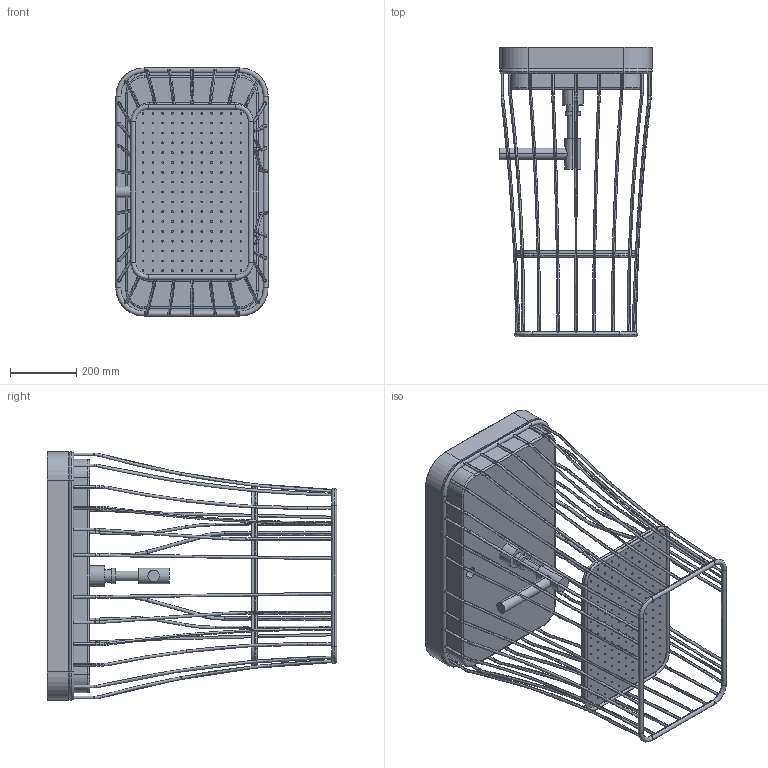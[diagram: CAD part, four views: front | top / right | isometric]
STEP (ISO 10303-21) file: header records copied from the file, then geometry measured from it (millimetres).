
FILE_DESCRIPTION (( 'STEP AP214' ), '1' );
FILE_NAME ('NP12623K+NC2285W-1.STEP', '2020-09-13T10:34:14', ( '' ), ( '' ), 'SwSTEP 2.0', 'SolidWorks 2020', '' );
FILE_SCHEMA (( 'AUTOMOTIVE_DESIGN' ));
Length unit declared in the file: millimetre
Products named in the file (1): NP12623K+NC2285W-1
Bounding box: 460 x 875 x 750 mm (x, y, z)
Volume: 24504000.5 mm3; surface area: 2372746.1 mm2
Topology: 4 solids, 4 shells, 853 faces, 2392 edges, 1500 vertices
Faces by surface type: cylinder 509, bspline 194, torus 110, plane 38, cone 2
Entity records: 65767 total; most frequent: CARTESIAN_POINT 34041, ORIENTED_EDGE 4778, DIRECTION 4529, EDGE_CURVE 2389, AXIS2_PLACEMENT_3D 1973, VERTEX_POINT 1499, CIRCLE 1313, EDGE_LOOP 1308
